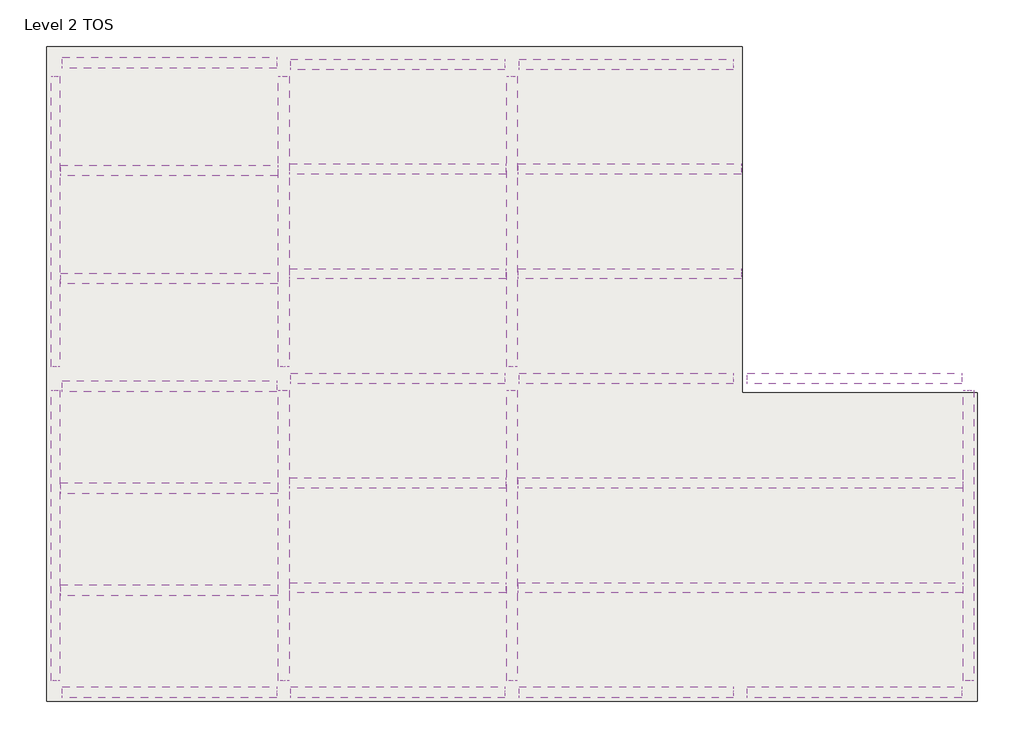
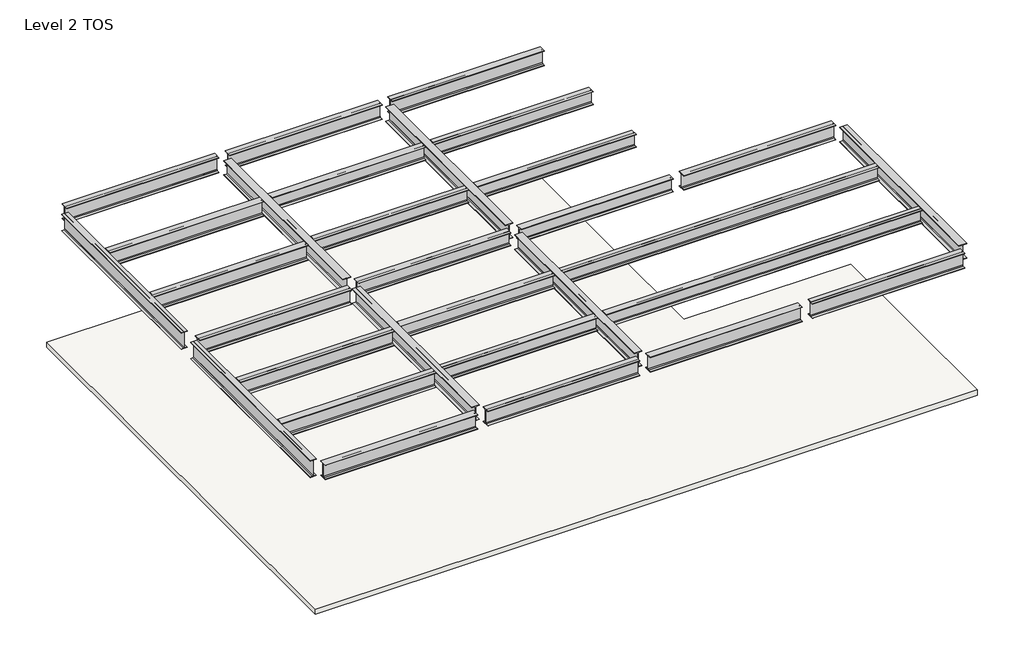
# One storey: 30 beams, 1 slab.
"""IFC4 building model written with IfcOpenShell, lengths in millimetres."""

from ifc_helpers import new_model, si_unit, frame, origin, place, context, project, spatial, polyline, outline, extrude, transform, mapped, element, save
from components import w_wide_flange_w12x26_56e9a040, w_wide_flange_w12x26_53716e72, w_wide_flange_w12x26_8e34c184, w_wide_flange_w12x26_9ce355fa, w_wide_flange_w12x26_2a9d9cf0, w_wide_flange_w14x30_80b13cbd, w_wide_flange_w14x30_8274a343, w_wide_flange_w14x30_860b21b5, w_wide_flange_w16x26_46cae3be

model = new_model("IFC4")

# Units and contexts
model_context = context("Model", 3, world=origin())
ifc_project = project(units=[si_unit("LENGTHUNIT", "METRE", prefix="MILLI")], contexts=[model_context])

# Site, building, storey
site = spatial("IfcSite", under=ifc_project)
building = spatial("IfcBuilding", under=site)
storey = spatial("IfcBuildingStorey", under=building, Name="Level 2 TOS", Elevation=3505.2)

# Beams
placement = place(None, origin())
w_wide_flange_w12x26_shape = w_wide_flange_w12x26_56e9a040(model_context)
element("IfcBeam", 1, ObjectType="W-Wide Flange : W12X26", at=placement, inside=storey, context=model_context, shape_type="MappedRepresentation", body=[
    mapped(w_wide_flange_w12x26_shape, transform((4244.4101113, 7073.2928451, 6810.771875), x_axis=(1.0, 0.0, 0.0), y_axis=(0.0, 1.0, 0.0), z_axis=(0.0, 0.0, 1.0))),
])
element("IfcBeam", 2, ObjectType="W-Wide Flange : W12X26", at=placement, inside=storey, context=model_context, shape_type="MappedRepresentation", body=[
    mapped(w_wide_flange_w12x26_shape, transform((4244.4101113, 5396.8928451, 6810.771875), x_axis=(1.0, 0.0, 0.0), y_axis=(0.0, 1.0, 0.0), z_axis=(0.0, 0.0, 1.0))),
])
element("IfcBeam", 3, ObjectType="W-Wide Flange : W12X26", at=placement, inside=storey, context=model_context, shape_type="MappedRepresentation", body=[
    mapped(w_wide_flange_w12x26_shape, transform((4244.4101113, 2044.0928451, 6810.771875), x_axis=(1.0, 0.0, 0.0), y_axis=(0.0, 1.0, 0.0), z_axis=(0.0, 0.0, 1.0))),
])
element("IfcBeam", 4, ObjectType="W-Wide Flange : W12X26", at=placement, inside=storey, context=model_context, shape_type="MappedRepresentation", body=[
    mapped(w_wide_flange_w12x26_shape, transform((4244.4101113, 367.6928451, 6810.771875), x_axis=(1.0, 0.0, 0.0), y_axis=(0.0, 1.0, 0.0), z_axis=(0.0, 0.0, 1.0))),
])
w_wide_flange_w12x26_2_shape = w_wide_flange_w12x26_53716e72(model_context)
element("IfcBeam", 5, ObjectType="W-Wide Flange : W12X26", at=placement, inside=storey, context=model_context, shape_type="MappedRepresentation", body=[
    mapped(w_wide_flange_w12x26_2_shape, transform((4244.4101113, 3720.4928451, 6810.771875), x_axis=(1.0, 0.0, 0.0), y_axis=(0.0, 1.0, 0.0), z_axis=(0.0, 0.0, 1.0))),
])
w_wide_flange_w12x26_3_shape = w_wide_flange_w12x26_8e34c184(model_context)
element("IfcBeam", 6, ObjectType="W-Wide Flange : W12X26", at=placement, inside=storey, context=model_context, shape_type="MappedRepresentation", body=[
    mapped(w_wide_flange_w12x26_3_shape, transform((7967.8913613, 7073.2928451, 6810.771875), x_axis=(1.0, 0.0, 0.0), y_axis=(0.0, 1.0, 0.0), z_axis=(0.0, 0.0, 1.0))),
])
element("IfcBeam", 7, ObjectType="W-Wide Flange : W12X26", at=placement, inside=storey, context=model_context, shape_type="MappedRepresentation", body=[
    mapped(w_wide_flange_w12x26_3_shape, transform((7967.8913613, 5396.8928451, 6810.771875), x_axis=(1.0, 0.0, 0.0), y_axis=(0.0, 1.0, 0.0), z_axis=(0.0, 0.0, 1.0))),
])
w_wide_flange_w12x26_4_shape = w_wide_flange_w12x26_9ce355fa(model_context)
element("IfcBeam", 8, ObjectType="W-Wide Flange : W12X26", at=placement, inside=storey, context=model_context, shape_type="MappedRepresentation", body=[
    mapped(w_wide_flange_w12x26_4_shape, transform((7967.8913613, 3720.4928451, 6810.771875), x_axis=(1.0, 0.0, 0.0), y_axis=(0.0, 1.0, 0.0), z_axis=(0.0, 0.0, 1.0))),
])
w_wide_flange_w12x26_5_shape = w_wide_flange_w12x26_2a9d9cf0(model_context)
element("IfcBeam", 9, ObjectType="W-Wide Flange : W12X26", at=placement, inside=storey, context=model_context, shape_type="MappedRepresentation", body=[
    mapped(w_wide_flange_w12x26_5_shape, transform((9730.8101113, 2044.0928451, 6810.771875), x_axis=(1.0, 0.0, 0.0), y_axis=(0.0, 1.0, 0.0), z_axis=(0.0, 0.0, 1.0))),
])
element("IfcBeam", 10, ObjectType="W-Wide Flange : W12X26", at=placement, inside=storey, context=model_context, shape_type="MappedRepresentation", body=[
    mapped(w_wide_flange_w12x26_5_shape, transform((9730.8101113, 367.6928451, 6810.771875), x_axis=(1.0, 0.0, 0.0), y_axis=(0.0, 1.0, 0.0), z_axis=(0.0, 0.0, 1.0))),
])
w_wide_flange_w14x30_shape = w_wide_flange_w14x30_80b13cbd(model_context)
element("IfcBeam", 11, ObjectType="W-Wide Flange : W14X30", at=placement, inside=storey, context=model_context, shape_type="MappedRepresentation", body=[
    mapped(w_wide_flange_w14x30_shape, transform((586.8101113, 7049.4803451, 6790.1839844), x_axis=(-1.0, 0.0, 0.0), y_axis=(0.0, -1.0, 0.0), z_axis=(0.0, 0.0, 1.0))),
])
element("IfcBeam", 12, ObjectType="W-Wide Flange : W14X30", at=placement, inside=storey, context=model_context, shape_type="MappedRepresentation", body=[
    mapped(w_wide_flange_w14x30_shape, transform((586.8101113, 5322.2803451, 6790.1839844), x_axis=(-1.0, 0.0, 0.0), y_axis=(0.0, -1.0, 0.0), z_axis=(0.0, 0.0, 1.0))),
])
element("IfcBeam", 13, ObjectType="W-Wide Flange : W14X30", at=placement, inside=storey, context=model_context, shape_type="MappedRepresentation", body=[
    mapped(w_wide_flange_w14x30_shape, transform((586.8101113, 1960.4845117, 6790.1839844), x_axis=(-1.0, 0.0, 0.0), y_axis=(0.0, -1.0, 0.0), z_axis=(0.0, 0.0, 1.0))),
])
element("IfcBeam", 14, ObjectType="W-Wide Flange : W14X30", at=placement, inside=storey, context=model_context, shape_type="MappedRepresentation", body=[
    mapped(w_wide_flange_w14x30_shape, transform((586.8101113, 325.8886784, 6790.1839844), x_axis=(-1.0, 0.0, 0.0), y_axis=(0.0, -1.0, 0.0), z_axis=(0.0, 0.0, 1.0))),
])
w_wide_flange_w14x30_2_shape = w_wide_flange_w14x30_8274a343(model_context)
element("IfcBeam", 15, ObjectType="W-Wide Flange : W14X30", at=placement, inside=storey, context=model_context, shape_type="MappedRepresentation", body=[
    mapped(w_wide_flange_w14x30_2_shape, transform((586.8101113, 8776.6803451, 6790.1839844), x_axis=(1.0, 0.0, 0.0), y_axis=(0.0, 1.0, 0.0), z_axis=(0.0, 0.0, 1.0))),
])
element("IfcBeam", 16, ObjectType="W-Wide Flange : W14X30", at=placement, inside=storey, context=model_context, shape_type="MappedRepresentation", body=[
    mapped(w_wide_flange_w14x30_2_shape, transform((586.8101113, 3595.0803451, 6790.1839844), x_axis=(1.0, 0.0, 0.0), y_axis=(0.0, 1.0, 0.0), z_axis=(0.0, 0.0, 1.0))),
])
element("IfcBeam", 17, ObjectType="W-Wide Flange : W14X30", at=placement, inside=storey, context=model_context, shape_type="MappedRepresentation", body=[
    mapped(w_wide_flange_w14x30_2_shape, transform((586.8101113, -1308.7071549, 6790.1839844), x_axis=(1.0, 0.0, 0.0), y_axis=(0.0, 1.0, 0.0), z_axis=(0.0, 0.0, 1.0))),
])
element("IfcBeam", 18, ObjectType="W-Wide Flange : W14X30", at=placement, inside=storey, context=model_context, shape_type="MappedRepresentation", body=[
    mapped(w_wide_flange_w14x30_2_shape, transform((4244.4101113, 8749.6928451, 6790.1839844), x_axis=(1.0, 0.0, 0.0), y_axis=(0.0, 1.0, 0.0), z_axis=(0.0, 0.0, 1.0))),
])
element("IfcBeam", 19, ObjectType="W-Wide Flange : W14X30", at=placement, inside=storey, context=model_context, shape_type="MappedRepresentation", body=[
    mapped(w_wide_flange_w14x30_2_shape, transform((7902.0101113, 8749.6928451, 6790.1839844), x_axis=(1.0, 0.0, 0.0), y_axis=(0.0, 1.0, 0.0), z_axis=(0.0, 0.0, 1.0))),
])
element("IfcBeam", 20, ObjectType="W-Wide Flange : W14X30", at=placement, inside=storey, context=model_context, shape_type="MappedRepresentation", body=[
    mapped(w_wide_flange_w14x30_2_shape, transform((4244.4101113, -1308.7071549, 6790.1839844), x_axis=(1.0, 0.0, 0.0), y_axis=(0.0, 1.0, 0.0), z_axis=(0.0, 0.0, 1.0))),
])
element("IfcBeam", 21, ObjectType="W-Wide Flange : W14X30", at=placement, inside=storey, context=model_context, shape_type="MappedRepresentation", body=[
    mapped(w_wide_flange_w14x30_2_shape, transform((7902.0101113, -1308.7071549, 6790.1839844), x_axis=(1.0, 0.0, 0.0), y_axis=(0.0, 1.0, 0.0), z_axis=(0.0, 0.0, 1.0))),
])
element("IfcBeam", 22, ObjectType="W-Wide Flange : W14X30", at=placement, inside=storey, context=model_context, shape_type="MappedRepresentation", body=[
    mapped(w_wide_flange_w14x30_2_shape, transform((11559.6101113, -1308.7071549, 6790.1839844), x_axis=(1.0, 0.0, 0.0), y_axis=(0.0, 1.0, 0.0), z_axis=(0.0, 0.0, 1.0))),
])
element("IfcBeam", 23, ObjectType="W-Wide Flange : W14X30", at=placement, inside=storey, context=model_context, shape_type="MappedRepresentation", body=[
    mapped(w_wide_flange_w14x30_2_shape, transform((11559.6101113, 3720.4928451, 6790.1839844), x_axis=(-1.0, 0.0, 0.0), y_axis=(0.0, -1.0, 0.0), z_axis=(0.0, 0.0, 1.0))),
])
w_wide_flange_w14x30_3_shape = w_wide_flange_w14x30_860b21b5(model_context)
element("IfcBeam", 24, ObjectType="W-Wide Flange : W14X30", at=placement, inside=storey, context=model_context, shape_type="MappedRepresentation", body=[
    mapped(w_wide_flange_w14x30_3_shape, transform((2415.6101113, 6235.0928451, 6790.1839844), x_axis=(0.0, 1.0, 0.0), y_axis=(-1.0, 0.0, 0.0), z_axis=(0.0, 0.0, 1.0))),
])
element("IfcBeam", 25, ObjectType="W-Wide Flange : W14X30", at=placement, inside=storey, context=model_context, shape_type="MappedRepresentation", body=[
    mapped(w_wide_flange_w14x30_3_shape, transform((2415.6101113, 1205.8928451, 6790.1839844), x_axis=(0.0, -1.0, 0.0), y_axis=(1.0, 0.0, 0.0), z_axis=(0.0, 0.0, 1.0))),
])
element("IfcBeam", 26, ObjectType="W-Wide Flange : W14X30", at=placement, inside=storey, context=model_context, shape_type="MappedRepresentation", body=[
    mapped(w_wide_flange_w14x30_3_shape, transform((6073.2101113, 6235.0928451, 6790.1839844), x_axis=(0.0, -1.0, 0.0), y_axis=(1.0, 0.0, 0.0), z_axis=(0.0, 0.0, 1.0))),
])
element("IfcBeam", 27, ObjectType="W-Wide Flange : W14X30", at=placement, inside=storey, context=model_context, shape_type="MappedRepresentation", body=[
    mapped(w_wide_flange_w14x30_3_shape, transform((6073.2101113, 1205.8928451, 6790.1839844), x_axis=(0.0, -1.0, 0.0), y_axis=(1.0, 0.0, 0.0), z_axis=(0.0, 0.0, 1.0))),
])
element("IfcBeam", 28, ObjectType="W-Wide Flange : W14X30", at=placement, inside=storey, context=model_context, shape_type="MappedRepresentation", body=[
    mapped(w_wide_flange_w14x30_3_shape, transform((13388.4101113, 1205.8928451, 6790.1839844), x_axis=(0.0, 1.0, 0.0), y_axis=(-1.0, 0.0, 0.0), z_axis=(0.0, 0.0, 1.0))),
])
w_wide_flange_w16x26_shape = w_wide_flange_w16x26_46cae3be(model_context)
element("IfcBeam", 29, ObjectType="W-Wide Flange : W16X26", at=placement, inside=storey, context=model_context, shape_type="MappedRepresentation", body=[
    mapped(w_wide_flange_w16x26_shape, transform((-1241.9898887, 6235.0928451, 6766.6691406), x_axis=(0.0, 1.0, 0.0), y_axis=(-1.0, 0.0, 0.0), z_axis=(0.0, 0.0, 1.0))),
])
element("IfcBeam", 30, ObjectType="W-Wide Flange : W16X26", at=placement, inside=storey, context=model_context, shape_type="MappedRepresentation", body=[
    mapped(w_wide_flange_w16x26_shape, transform((-1241.9898887, 1205.8928451, 6766.6691406), x_axis=(0.0, -1.0, 0.0), y_axis=(1.0, 0.0, 0.0), z_axis=(0.0, 0.0, 1.0))),
])

# Slab
element("IfcSlab", 31, ObjectType="3\" LW Concrete on 2\" Metal Deck 2010 upgrade", at=placement, inside=storey, context=model_context, shape_type="SweptSolid", body=[
    extrude(outline(polyline([(13529.6976113, -1449.9946549), (-1383.2773887, -1449.9946549), (-1383.2773887, 9037.0303451), (9765.7351113, 9037.0303451), (9765.7351113, 3491.8928451), (13529.6976113, 3491.8928451), (13529.6976113, -1449.9946549)])), frame((0.0, 0.0, 3530.6), z_axis=(0.0, 0.0, 1.0), x_axis=(1.0, 0.0, 0.0)), (0.0, 0.0, 1.0), 127.0),
])

save(model, "model.ifc")
